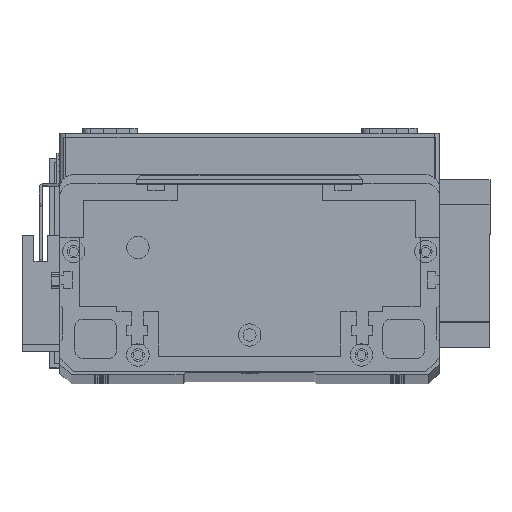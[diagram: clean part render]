
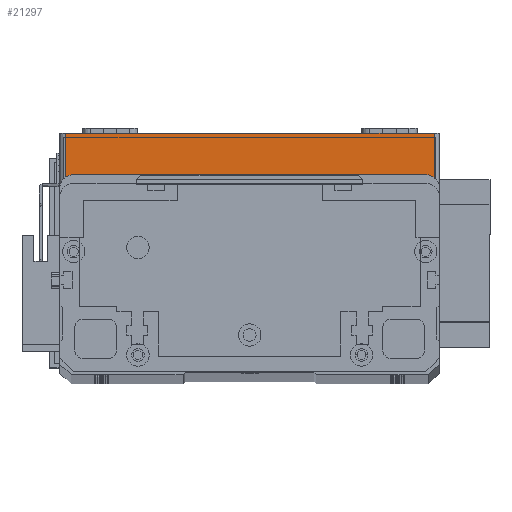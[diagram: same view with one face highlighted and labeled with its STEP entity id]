
A CAD part, top view. The second image highlights one B-rep face of the part: STEP entity #21297.
In plain terms, the highlighted planar face has unit normal (0, 0, 1) as drawn and (0, -1, 0) by its records, which use the part's own axes.
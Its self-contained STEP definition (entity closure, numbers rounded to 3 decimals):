
#606 = LINE ( 'NONE', #26131, #6097 ) ;
#887 = DIRECTION ( 'NONE',  ( 1., 0., 0. ) ) ;
#2644 = LINE ( 'NONE', #28724, #14241 ) ;
#3086 = CARTESIAN_POINT ( 'NONE',  ( 0., 0., 0. ) ) ;
#5431 = DIRECTION ( 'NONE',  ( 0., 0., -1. ) ) ;
#5442 = DIRECTION ( 'NONE',  ( 1., 0., 0. ) ) ;
#5923 = VECTOR ( 'NONE', #5442, 1000. ) ;
#5943 = LINE ( 'NONE', #11047, #17513 ) ;
#6097 = VECTOR ( 'NONE', #5431, 1000. ) ;
#6829 = EDGE_LOOP ( 'NONE', ( #8490, #7400, #18485, #12912 ) ) ;
#7053 = CARTESIAN_POINT ( 'NONE',  ( 2., 0., 0. ) ) ;
#7077 = VERTEX_POINT ( 'NONE', #7053 ) ;
#7400 = ORIENTED_EDGE ( 'NONE', *, *, #26301, .T. ) ;
#8490 = ORIENTED_EDGE ( 'NONE', *, *, #9513, .F. ) ;
#9214 = CARTESIAN_POINT ( 'NONE',  ( 2., 0., 19.5 ) ) ;
#9513 = EDGE_CURVE ( 'NONE', #15229, #25016, #2644, .T. ) ;
#10860 = DIRECTION ( 'NONE',  ( 0., 1., 0. ) ) ;
#11047 = CARTESIAN_POINT ( 'NONE',  ( 134., 0., 19.5 ) ) ;
#12815 = LINE ( 'NONE', #3086, #5923 ) ;
#12912 = ORIENTED_EDGE ( 'NONE', *, *, #28702, .T. ) ;
#13060 = FACE_OUTER_BOUND ( 'NONE', #6829, .T. ) ;
#13371 = DIRECTION ( 'NONE',  ( 0., 0., 1. ) ) ;
#14241 = VECTOR ( 'NONE', #887, 1000. ) ;
#14270 = CARTESIAN_POINT ( 'NONE',  ( 134., 0., 19.5 ) ) ;
#15229 = VERTEX_POINT ( 'NONE', #9214 ) ;
#15568 = VERTEX_POINT ( 'NONE', #20344 ) ;
#17513 = VECTOR ( 'NONE', #13371, 1000. ) ;
#17605 = PLANE ( 'NONE',  #21552 ) ;
#18485 = ORIENTED_EDGE ( 'NONE', *, *, #29064, .T. ) ;
#20344 = CARTESIAN_POINT ( 'NONE',  ( 134., 0., 0. ) ) ;
#21297 = ADVANCED_FACE ( 'NONE', ( #13060 ), #17605, .F. ) ;
#21552 = AXIS2_PLACEMENT_3D ( 'NONE', #26881, #10860, #26988 ) ;
#25016 = VERTEX_POINT ( 'NONE', #14270 ) ;
#26131 = CARTESIAN_POINT ( 'NONE',  ( 2., 0., 19.5 ) ) ;
#26301 = EDGE_CURVE ( 'NONE', #15229, #7077, #606, .T. ) ;
#26881 = CARTESIAN_POINT ( 'NONE',  ( 0., 0., 19.5 ) ) ;
#26988 = DIRECTION ( 'NONE',  ( 0., 0., 1. ) ) ;
#28702 = EDGE_CURVE ( 'NONE', #15568, #25016, #5943, .T. ) ;
#28724 = CARTESIAN_POINT ( 'NONE',  ( 0., 0., 19.5 ) ) ;
#29064 = EDGE_CURVE ( 'NONE', #7077, #15568, #12815, .T. ) ;
